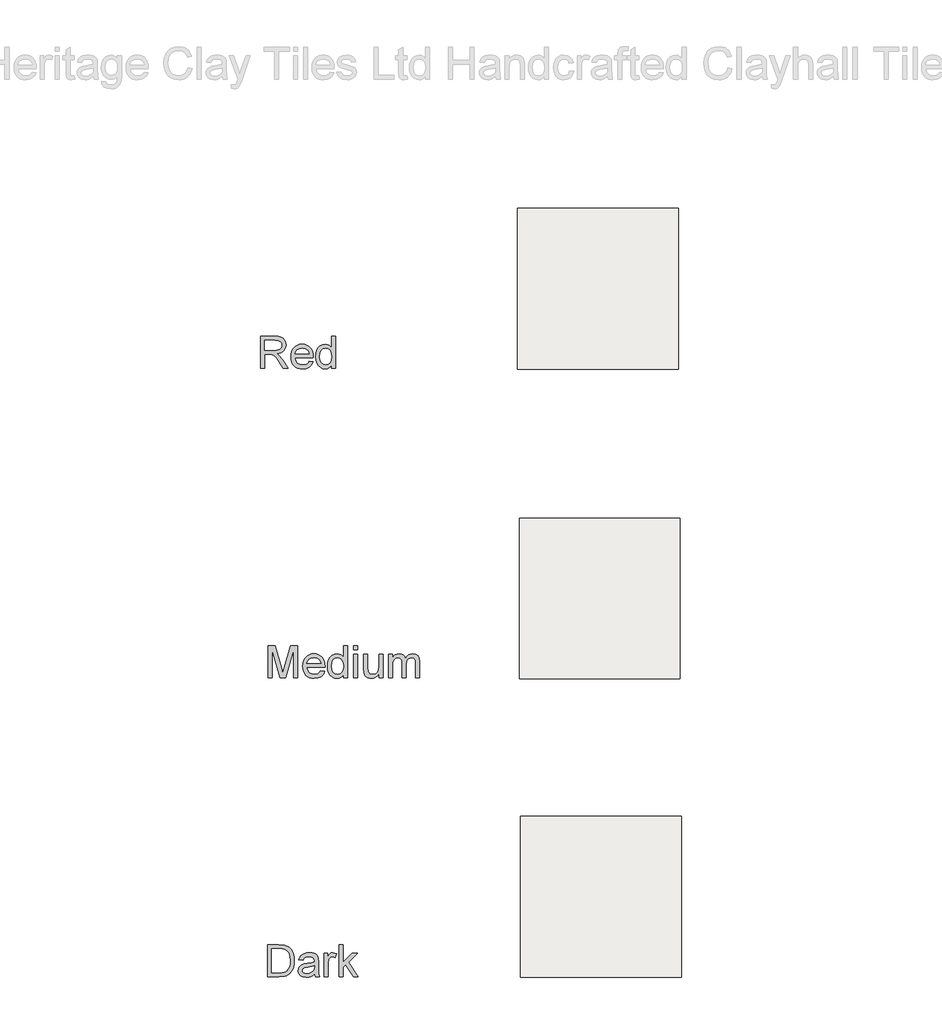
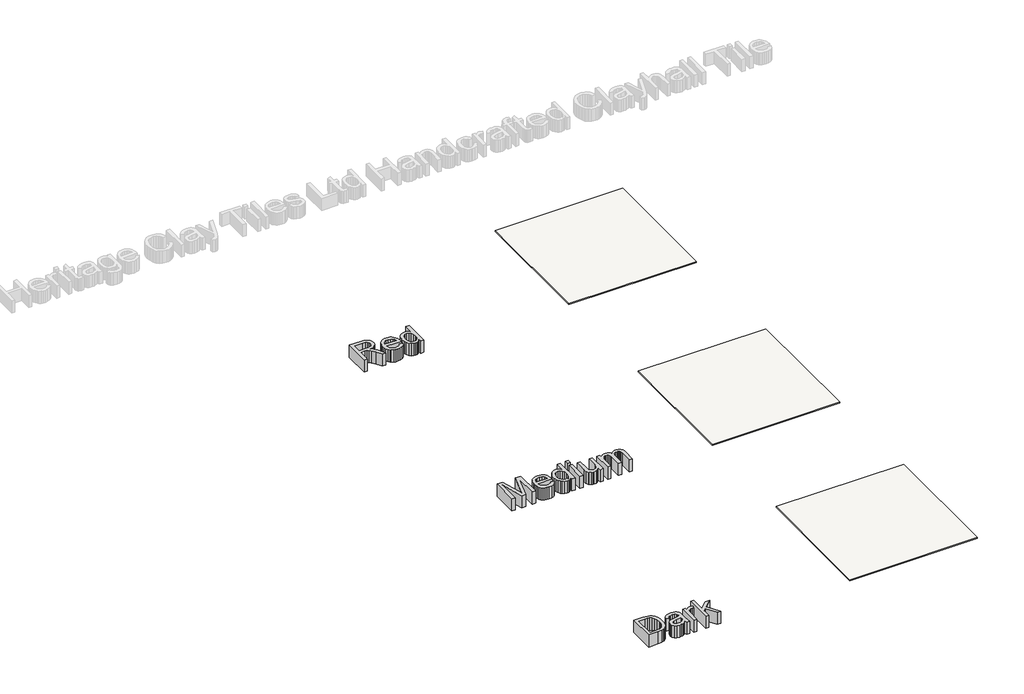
# One storey, part 1 of 3: 3 coverings, 3 proxies.
"""IFC4 building model written with IfcOpenShell, lengths in millimetres."""

from ifc_helpers import new_model, si_unit, frame, origin, place, context, project, spatial, polyline, outline, extrude, element, save

model = new_model("IFC4")

# Units and contexts
model_context = context("Model", 3, world=origin())
ifc_project = project(units=[si_unit("LENGTHUNIT", "METRE", prefix="MILLI")], contexts=[model_context])

# Site, building, storey
site = spatial("IfcSite", under=ifc_project)
building = spatial("IfcBuilding", under=site)
storey = spatial("IfcBuildingStorey", under=building, Name="Marley Eternit Clay Plain Tile", Elevation=3000.0)

# Proxies
placement = place(None, origin())
element("IfcBuildingElementProxy", 1, Name="600mm Arial", ObjectType="600mm Arial", at=placement, inside=storey, context=model_context, shape_type="SweptSolid", body=[
    extrude(outline(polyline([(-13175.25052, -31.4337472), (-13175.25052, 269.9351832), (-13110.4297124, 269.9351832), (-13048.77269, 57.5201192), (-13036.3382786, 13.1535506), (-13022.8737976, 61.1989392), (-12962.2468447, 269.9351832), (-12897.4260372, 269.9351832), (-12897.4260372, -31.4337472), (-12935.0971535, -31.4337472), (-12935.0971535, 232.2640669), (-13010.8072681, -31.4337472), (-13061.869289, -31.4337472), (-13137.5794036, 232.2640669), (-13137.5794036, -31.4337472), (-13175.25052, -31.4337472)])), frame((0.0, 0.0, 3000.0), z_axis=(0.0, 0.0, 1.0), x_axis=(1.0, 0.0, 0.0)), (0.0, 0.0, 1.0), 150.0),
    extrude(outline(polyline([(-12681.2585768, 34.4907063), (-12644.3232245, 29.7818168), (-12657.6313557, 1.9515439), (-12678.8673439, -18.852183), (-12707.5529424, -31.8200233), (-12743.2099048, -36.1426367), (-12766.5842071, -34.2779349), (-12787.4109265, -28.6838293), (-12805.6900632, -19.36032), (-12821.421617, -6.3074069), (-12834.0721591, 10.1116264), (-12843.1082606, 29.5334965), (-12848.5299215, 51.9582033), (-12850.3371418, 77.385747), (-12848.5115274, 103.6755141), (-12843.0346842, 126.8474812), (-12833.9066122, 146.9016485), (-12821.1273114, 163.8380158), (-12805.4371443, 177.2932998), (-12787.5764734, 186.9042169), (-12767.5452988, 192.6707672), (-12745.3436204, 194.5929506), (-12723.8570126, 192.6753657), (-12704.4259455, 186.922611), (-12687.050419, 177.3346865), (-12671.7304332, 163.9115922), (-12659.2247446, 147.0120131), (-12650.2921099, 126.994634), (-12644.9325291, 103.8594551), (-12643.1460021, 77.6064762), (-12643.3667313, 67.4529331), (-12812.6660255, 67.4529331), (-12806.1453171, 39.2547782), (-12790.997776, 18.5246277), (-12769.1363884, 5.7775166), (-12742.4741408, 1.5284796), (-12722.4245721, 3.4966482), (-12705.5387885, 9.4011543), (-12691.8167901, 19.6098796), (-12681.2585768, 34.4907063)]), holes=[polyline([(-12812.6660255, 105.1240494), (-12680.8171184, 105.1240494), (-12685.9122841, 125.0264653), (-12695.9002802, 139.2634986), (-12717.8628353, 152.5072504), (-12745.4907732, 156.9218343), (-12770.8838279, 153.3993642), (-12791.8806928, 142.8319539), (-12806.4764109, 126.3600376), (-12812.6660255, 105.1240494)])]), frame((0.0, 0.0, 3000.0), z_axis=(0.0, 0.0, 1.0), x_axis=(1.0, 0.0, 0.0)), (0.0, 0.0, 1.0), 150.0),
    extrude(outline(polyline([(-12468.9170892, -31.4337472), (-12468.9170892, 4.1036535), (-12480.1880738, -13.5040985), (-12493.8410944, -26.0810642), (-12509.8761509, -33.6272436), (-12528.2932432, -36.1426367), (-12552.6470313, -32.500605), (-12574.9406802, -21.5745097), (-12593.8130266, -4.1277061), (-12607.902907, 19.0764507), (-12616.6768926, 47.0998617), (-12619.6015544, 79.0044278), (-12616.9068188, 110.5135206), (-12608.822612, 138.969193), (-12595.358131, 162.752764), (-12576.5225728, 180.2455528), (-12553.7414803, 191.0061012), (-12528.440396, 194.5929506), (-12510.0095081, 192.0269737), (-12493.7123357, 184.329043), (-12479.8983668, 172.529228), (-12468.9170892, 157.6575983), (-12468.9170892, 269.9351832), (-12431.2459729, 269.9351832), (-12431.2459729, -31.4337472), (-12468.9170892, -31.4337472)]), holes=[polyline([(-12581.9304381, 79.1515806), (-12577.6814011, 45.0765107), (-12564.93429, 20.8422843), (-12546.4114315, 6.3569308), (-12524.8351525, 1.5284796), (-12503.2680705, 6.1362016), (-12485.2142616, 19.9593675), (-12472.9913823, 43.2554949), (-12468.9170892, 76.282101), (-12473.0649587, 112.3897188), (-12485.5085672, 137.4240886), (-12504.0222286, 152.0473979), (-12526.3802569, 156.9218343), (-12548.1772651, 152.2405359), (-12566.0379359, 138.1966408), (-12577.9573126, 114.0727789), (-12581.9304381, 79.1515806)])]), frame((0.0, 0.0, 3000.0), z_axis=(0.0, 0.0, 1.0), x_axis=(1.0, 0.0, 0.0)), (0.0, 0.0, 1.0), 150.0),
    extrude(outline(polyline([(-12374.7392984, -31.4337472), (-12374.7392984, 189.8840611), (-12337.0681821, 189.8840611), (-12337.0681821, -31.4337472), (-12374.7392984, -31.4337472)])), frame((0.0, 0.0, 3000.0), z_axis=(0.0, 0.0, 1.0), x_axis=(1.0, 0.0, 0.0)), (0.0, 0.0, 1.0), 150.0),
    extrude(outline(polyline([(-12374.7392984, 232.2640669), (-12374.7392984, 269.9351832), (-12337.0681821, 269.9351832), (-12337.0681821, 232.2640669), (-12374.7392984, 232.2640669)])), frame((0.0, 0.0, 3000.0), z_axis=(0.0, 0.0, 1.0), x_axis=(1.0, 0.0, 0.0)), (0.0, 0.0, 1.0), 150.0),
    extrude(outline(polyline([(-12139.2948215, -31.4337472), (-12139.2948215, 6.6052511), (-12152.9248495, -12.0969498), (-12168.7989575, -25.4556648), (-12186.9171458, -33.4708937), (-12207.2794142, -36.1426367), (-12225.6275288, -34.2664386), (-12242.7064504, -28.637844), (-12257.0354541, -20.1765581), (-12267.1338149, -9.8022859), (-12278.3542157, 17.9360166), (-12280.5615077, 52.9583825), (-12280.5615077, 189.8840611), (-12242.8903914, 189.8840611), (-12242.8903914, 70.6902947), (-12240.609523, 32.2834144), (-12235.1188842, 19.4719239), (-12225.7103022, 9.7322481), (-12213.0091763, 3.5794217), (-12197.640906, 1.5284796), (-12181.3897188, 3.6254069), (-12166.1869954, 9.9161891), (-12153.6514164, 19.8214118), (-12145.4016627, 32.761661), (-12140.8215318, 50.4843761), (-12139.2948215, 74.7369966), (-12139.2948215, 189.8840611), (-12101.6237052, 189.8840611), (-12101.6237052, -31.4337472), (-12139.2948215, -31.4337472)])), frame((0.0, 0.0, 3000.0), z_axis=(0.0, 0.0, 1.0), x_axis=(1.0, 0.0, 0.0)), (0.0, 0.0, 1.0), 150.0),
    extrude(outline(polyline([(-12049.8259203, -31.4337472), (-12049.8259203, 189.8840611), (-12012.154804, 189.8840611), (-12012.154804, 153.4637436), (-12000.8240386, 170.1931773), (-11986.2559115, 183.2989734), (-11968.9470637, 191.7694563), (-11949.3941356, 194.5929506), (-11928.443256, 191.714274), (-11911.6494429, 183.0782442), (-11899.1046669, 169.2550782), (-11890.9008984, 150.8149932), (-11877.1697029, 169.9678496), (-11861.507127, 183.6484613), (-11843.9131706, 191.8568283), (-11824.3878337, 194.5929506), (-11796.0701171, 190.0404109), (-11775.1284345, 176.3827919), (-11762.1881853, 153.2522114), (-11757.8747689, 120.2807876), (-11757.8747689, -31.4337472), (-11795.5458852, -31.4337472), (-11795.5458852, 104.0939798), (-11799.0407642, 135.5478904), (-11803.9519888, 144.2207084), (-11811.6959048, 151.0357224), (-11821.6563098, 155.4503064), (-11833.2170015, 156.9218343), (-11853.6252552, 153.1510439), (-11870.2627185, 141.8386725), (-11881.3267695, 122.2121681), (-11885.0147865, 93.4989784), (-11885.0147865, -31.4337472), (-11922.6859028, -31.4337472), (-11922.6859028, 108.2878346), (-11924.8656036, 129.5882021), (-11931.4047061, 144.7817285), (-11942.9102155, 153.8868079), (-11959.9891371, 156.9218343), (-11974.5020818, 154.8984834), (-11987.8745923, 148.8284304), (-11998.9110522, 138.8588284), (-12006.4158449, 125.1368299), (-12010.7200642, 106.0989367), (-12012.154804, 80.1816501), (-12012.154804, -31.4337472), (-12049.8259203, -31.4337472)])), frame((0.0, 0.0, 3000.0), z_axis=(0.0, 0.0, 1.0), x_axis=(1.0, 0.0, 0.0)), (0.0, 0.0, 1.0), 150.0),
])
element("IfcBuildingElementProxy", 2, Name="600mm Arial", ObjectType="600mm Arial", at=placement, inside=storey, context=model_context, shape_type="SweptSolid", body=[
    extrude(outline(polyline([(-13178.8171835, -2822.4153802), (-13178.8171835, -2521.0464497), (-13074.8537317, -2521.0464497), (-13021.069384, -2525.3874573), (-12997.0466897, -2533.7567727), (-12976.7763918, -2546.9453422), (-12955.9358768, -2569.9011787), (-12941.0918383, -2598.4488215), (-12932.2074881, -2632.0364477), (-12929.246038, -2670.1122342), (-12931.2509949, -2702.4582586), (-12937.2658655, -2730.923128), (-12946.4261272, -2755.1573544), (-12957.8672572, -2774.81145), (-12971.0374327, -2790.3268732), (-12985.3848305, -2802.1450822), (-13001.8567468, -2810.9098708), (-13021.4004778, -2817.2650322), (-13069.8505366, -2822.4153802), (-13178.8171835, -2822.4153802)]), holes=[polyline([(-13141.1460672, -2784.7442639), (-13074.4858497, -2784.7442639), (-13046.9130942, -2783.3831005), (-13025.9990027, -2779.2996103), (-13010.2168651, -2772.7329167), (-12998.0399711, -2763.9221429), (-12984.9525691, -2747.6157735), (-12975.1209228, -2726.508544), (-12968.9680964, -2700.508484), (-12966.9171543, -2669.523623), (-12970.9362651, -2628.4679923), (-12982.9935975, -2598.1545159), (-13000.8082831, -2577.332395), (-13022.0994536, -2564.7508308), (-13043.7677031, -2560.2258822), (-13075.5159193, -2558.717566), (-13141.1460672, -2558.717566), (-13141.1460672, -2784.7442639)])]), frame((0.0, 0.0, 3000.0), z_axis=(0.0, 0.0, 1.0), x_axis=(1.0, 0.0, 0.0)), (0.0, 0.0, 1.0), 150.0),
    extrude(outline(polyline([(-12740.8904565, -2794.162043), (-12758.8890831, -2809.5946926), (-12777.4211386, -2819.6930534), (-12796.9096873, -2825.2664656), (-12817.7777935, -2827.1242697), (-12849.2592952, -2822.6545035), (-12872.4818462, -2809.2452048), (-12886.8016528, -2788.8829363), (-12891.5749217, -2763.554261), (-12889.7722999, -2747.9376703), (-12884.3644346, -2733.7558193), (-12876.0227104, -2721.6157135), (-12865.4185118, -2712.124358), (-12839.0413728, -2699.763523), (-12806.447028, -2694.0981403), (-12767.9297831, -2688.1384519), (-12741.1111857, -2681.148694), (-12740.8904565, -2672.7609845), (-12743.4840245, -2655.9487774), (-12751.2647287, -2644.9491057), (-12768.6655471, -2636.7821254), (-12792.9089706, -2634.0597987), (-12815.3497723, -2635.8716175), (-12831.0215453, -2641.307074), (-12841.7085173, -2651.3594495), (-12849.1949159, -2667.0220254), (-12886.8660322, -2662.3131359), (-12880.3269297, -2641.7117442), (-12870.5688598, -2625.5249364), (-12856.6813145, -2613.1457072), (-12837.7537858, -2603.9670514), (-12814.6048113, -2598.2832746), (-12788.0529283, -2596.3886823), (-12762.5862971, -2598.0625454), (-12742.3987727, -2603.0841347), (-12727.1776551, -2610.6349126), (-12716.6102448, -2619.8963418), (-12709.6020928, -2631.3466689), (-12705.0587502, -2645.4641405), (-12703.2193402, -2678.4263673), (-12703.2193402, -2725.2945335), (-12701.3063538, -2790.7407404), (-12693.8015611, -2822.4153802), (-12731.4726774, -2822.4153802), (-12740.8904565, -2794.162043)]), holes=[polyline([(-12740.8904565, -2718.8198103), (-12801.6645621, -2730.371305), (-12834.0749659, -2736.4781461), (-12848.7534575, -2746.41096), (-12853.9038054, -2760.9055106), (-12851.0987052, -2772.1075173), (-12842.6834045, -2781.2861731), (-12828.8418445, -2787.4114083), (-12809.757966, -2789.4531534), (-12789.5244562, -2787.1998762), (-12771.6453913, -2780.4400445), (-12757.1508407, -2770.4796395), (-12747.070874, -2758.6246422), (-12742.6011078, -2746.41096), (-12741.1111857, -2729.4883882), (-12740.8904565, -2718.8198103)])]), frame((0.0, 0.0, 3000.0), z_axis=(0.0, 0.0, 1.0), x_axis=(1.0, 0.0, 0.0)), (0.0, 0.0, 1.0), 150.0),
    extrude(outline(polyline([(-12651.4215553, -2822.4153802), (-12651.4215553, -2601.0975719), (-12618.4593285, -2601.0975719), (-12618.4593285, -2633.8390695), (-12606.2824344, -2614.8563585), (-12595.0620336, -2603.6727458), (-12583.8048445, -2598.2096982), (-12571.5175859, -2596.3886823), (-12552.7556041, -2599.2949501), (-12533.6993168, -2608.0137534), (-12546.280881, -2641.7853205), (-12559.5246329, -2635.9911791), (-12572.7683847, -2634.0597987), (-12584.0163767, -2635.9176027), (-12594.0687522, -2641.491015), (-12602.1897472, -2650.356971), (-12607.6435978, -2662.0924067), (-12612.2237287, -2683.1352568), (-12613.7504389, -2706.0910933), (-12613.7504389, -2822.4153802), (-12651.4215553, -2822.4153802)])), frame((0.0, 0.0, 3000.0), z_axis=(0.0, 0.0, 1.0), x_axis=(1.0, 0.0, 0.0)), (0.0, 0.0, 1.0), 150.0),
    extrude(outline(polyline([(-12510.1548691, -2822.4153802), (-12510.1548691, -2521.0464497), (-12472.4837528, -2521.0464497), (-12472.4837528, -2682.988104), (-12388.0180467, -2601.0975719), (-12335.9259562, -2601.0975719), (-12421.4217319, -2684.0181736), (-12331.2170667, -2822.4153802), (-12375.2157533, -2822.4153802), (-12448.4242703, -2710.2113717), (-12472.4837528, -2733.5350901), (-12472.4837528, -2822.4153802), (-12510.1548691, -2822.4153802)])), frame((0.0, 0.0, 3000.0), z_axis=(0.0, 0.0, 1.0), x_axis=(1.0, 0.0, 0.0)), (0.0, 0.0, 1.0), 150.0),
])
element("IfcBuildingElementProxy", 3, Name="600mm Arial", ObjectType="600mm Arial", at=placement, inside=storey, context=model_context, shape_type="SweptSolid", body=[
    extrude(outline(polyline([(-13243.125824, 2857.26644), (-13243.125824, 3158.6353705), (-13113.2634797, 3158.6353705), (-13078.3606754, 3156.6028225), (-13052.9676207, 3150.5051784), (-13034.4079741, 3139.2479893), (-13020.005394, 3121.7368064), (-13010.7623588, 3100.0225716), (-13007.6813471, 3076.1562272), (-13012.7857098, 3046.4681502), (-13028.0987979, 3021.8568447), (-13039.698577, 3011.8274618), (-13054.0804638, 3003.8122328), (-13091.19056, 2993.8242367), (-13069.7798279, 2977.7110053), (-13039.2456223, 2938.936243), (-12988.9929418, 2857.26644), (-13032.7708992, 2857.26644), (-13071.9871199, 2919.7328028), (-13100.3140335, 2961.0827391), (-13120.2164494, 2980.617273), (-13138.1323026, 2987.7909719), (-13159.9844931, 2989.1153471), (-13205.4547077, 2989.1153471), (-13205.4547077, 2857.26644), (-13243.125824, 2857.26644)]), holes=[polyline([(-13205.4547077, 3026.7864634), (-13121.1361544, 3026.7864634), (-13096.9203221, 3028.1200357), (-13078.1307492, 3032.1207524), (-13063.9856865, 3039.055328), (-13053.7033847, 3049.1904769), (-13047.4401938, 3061.4501444), (-13045.3524634, 3074.7582756), (-13049.334786, 3093.1339813), (-13061.2817538, 3107.9412316), (-13081.8371603, 3117.7084985), (-13111.644799, 3120.9642542), (-13205.4547077, 3120.9642542), (-13205.4547077, 3026.7864634)])]), frame((0.0, 0.0, 3000.0), z_axis=(0.0, 0.0, 1.0), x_axis=(1.0, 0.0, 0.0)), (0.0, 0.0, 1.0), 150.0),
    extrude(outline(polyline([(-12791.5138868, 2923.1908936), (-12754.5785344, 2918.482004), (-12767.8866656, 2890.6517311), (-12789.1226538, 2869.8480043), (-12817.8082524, 2856.880164), (-12853.4652147, 2852.5575505), (-12876.839517, 2854.4222524), (-12897.6662365, 2860.016358), (-12915.9453731, 2869.3398673), (-12931.6769269, 2882.3927803), (-12944.327469, 2898.8118136), (-12953.3635705, 2918.2336837), (-12958.7852314, 2940.6583906), (-12960.5924517, 2966.0859342), (-12958.7668373, 2992.3757013), (-12953.2899941, 3015.5476685), (-12944.1619221, 3035.6018357), (-12931.3826213, 3052.5382031), (-12915.6924542, 3065.9934871), (-12897.8317834, 3075.6044042), (-12877.8006087, 3081.3709545), (-12855.5989303, 3083.2931379), (-12834.1123225, 3081.375553), (-12814.6812554, 3075.6227983), (-12797.3057289, 3066.0348738), (-12781.9857431, 3052.6117795), (-12769.4800545, 3035.7122003), (-12760.5474198, 3015.6948213), (-12755.187839, 2992.5596423), (-12753.4013121, 2966.3066634), (-12753.6220413, 2956.1531203), (-12922.9213354, 2956.1531203), (-12916.4006271, 2927.9549654), (-12901.2530859, 2907.224815), (-12879.3916984, 2894.4777039), (-12852.7294508, 2890.2286668), (-12832.679882, 2892.1968355), (-12815.7940984, 2898.1013415), (-12802.0721, 2908.3100669), (-12791.5138868, 2923.1908936)]), holes=[polyline([(-12922.9213354, 2993.8242367), (-12791.0724284, 2993.8242367), (-12796.167594, 3013.7266526), (-12806.1555902, 3027.9636858), (-12828.1181453, 3041.2074376), (-12855.7460831, 3045.6220216), (-12881.1391378, 3042.0995515), (-12902.1360027, 3031.5321412), (-12916.7317209, 3015.0602248), (-12922.9213354, 2993.8242367)])]), frame((0.0, 0.0, 3000.0), z_axis=(0.0, 0.0, 1.0), x_axis=(1.0, 0.0, 0.0)), (0.0, 0.0, 1.0), 150.0),
    extrude(outline(polyline([(-12579.1723991, 2857.26644), (-12579.1723991, 2892.8038408), (-12590.4433838, 2875.1960888), (-12604.0964043, 2862.6191231), (-12620.1314608, 2855.0729436), (-12638.5485532, 2852.5575505), (-12662.9023412, 2856.1995823), (-12685.1959902, 2867.1256775), (-12704.0683365, 2884.5724811), (-12718.1582169, 2907.776638), (-12726.9322025, 2935.800049), (-12729.8568644, 2967.704615), (-12727.1621288, 2999.2137079), (-12719.0779219, 3027.6693802), (-12705.6134409, 3051.4529512), (-12686.7778827, 3068.9457401), (-12663.9967902, 3079.7062884), (-12638.695706, 3083.2931379), (-12620.264818, 3080.727161), (-12603.9676456, 3073.0292302), (-12590.1536767, 3061.2294152), (-12579.1723991, 3046.3577856), (-12579.1723991, 3158.6353705), (-12541.5012828, 3158.6353705), (-12541.5012828, 2857.26644), (-12579.1723991, 2857.26644)]), holes=[polyline([(-12692.1857481, 2967.8517678), (-12687.936711, 2933.776698), (-12675.1895999, 2909.5424716), (-12656.6667414, 2895.057118), (-12635.0904624, 2890.2286668), (-12613.5233804, 2894.8363888), (-12595.4695715, 2908.6595548), (-12583.2466922, 2931.9556821), (-12579.1723991, 2964.9822882), (-12583.3202686, 3001.0899061), (-12595.7638771, 3026.1242758), (-12614.2775385, 3040.7475851), (-12636.6355668, 3045.6220216), (-12658.432575, 3040.9407232), (-12676.2932459, 3026.896828), (-12688.2126225, 3002.7729662), (-12692.1857481, 2967.8517678)])]), frame((0.0, 0.0, 3000.0), z_axis=(0.0, 0.0, 1.0), x_axis=(1.0, 0.0, 0.0)), (0.0, 0.0, 1.0), 150.0),
])

# Coverings
element("IfcCovering", 4, ObjectType="Heritage Tiles - Clayhall Medium", at=placement, inside=storey, context=model_context, shape_type="SweptSolid", body=[
    extrude(outline(polyline([(-10828.1924603, -40.5742465), (-10828.1924603, 1459.4257535), (-9328.1924603, 1459.4257535), (-9328.1924603, -40.5742465), (-10828.1924603, -40.5742465)])), frame((0.0, 0.0, 3000.0), z_axis=(0.0, 0.0, 1.0), x_axis=(1.0, 0.0, 0.0)), (0.0, 0.0, 1.0), 12.0),
])
element("IfcCovering", 5, ObjectType="Heritage Tiles - Clayhall Red", at=placement, inside=storey, context=model_context, shape_type="SweptSolid", body=[
    extrude(outline(polyline([(-10842.4184899, 2851.9806915), (-10842.4184899, 4351.9806915), (-9342.4184899, 4351.9806915), (-9342.4184899, 2851.9806915), (-10842.4184899, 2851.9806915)])), frame((0.0, 0.0, 3000.0), z_axis=(0.0, 0.0, 1.0), x_axis=(1.0, 0.0, 0.0)), (0.0, 0.0, 1.0), 13.0),
])
element("IfcCovering", 6, ObjectType="Heritage Tiles - Clayhall Dark", at=placement, inside=storey, context=model_context, shape_type="SweptSolid", body=[
    extrude(outline(polyline([(-10814.7423355, -2824.2449721), (-10814.7423355, -1324.2449721), (-9314.7423355, -1324.2449721), (-9314.7423355, -2824.2449721), (-10814.7423355, -2824.2449721)])), frame((0.0, 0.0, 3000.0), z_axis=(0.0, 0.0, 1.0), x_axis=(1.0, 0.0, 0.0)), (0.0, 0.0, 1.0), 12.0),
])

save(model, "model.ifc")
